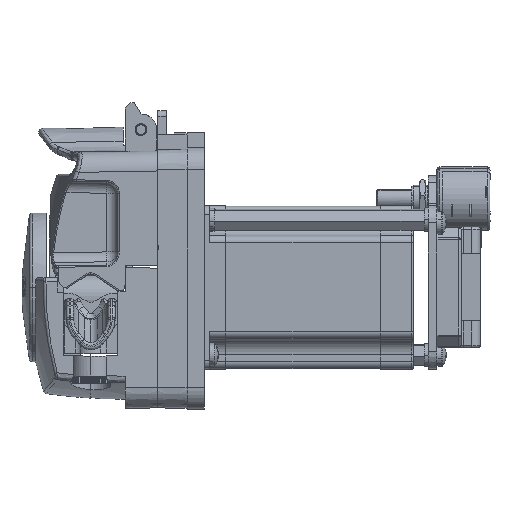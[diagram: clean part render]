
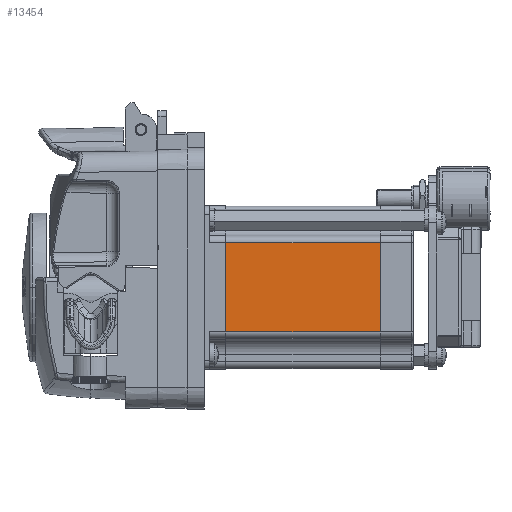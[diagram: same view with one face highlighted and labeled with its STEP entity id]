
A CAD part, top view. The second image highlights one B-rep face of the part: STEP entity #13454.
In plain terms, the highlighted planar face has unit normal (0, 0, 1).
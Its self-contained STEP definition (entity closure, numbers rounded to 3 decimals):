
#2493 = EDGE_CURVE ( 'NONE', #44561, #57234, #45934, .T. ) ;
#3236 = ORIENTED_EDGE ( 'NONE', *, *, #20475, .F. ) ;
#5721 = CARTESIAN_POINT ( 'NONE',  ( 101.1, 15.57, 28.3 ) ) ;
#5938 = CARTESIAN_POINT ( 'NONE',  ( 101.1, 15.57, 28.3 ) ) ;
#6379 = VERTEX_POINT ( 'NONE', #5721 ) ;
#7312 = DIRECTION ( 'NONE',  ( 1., 0., 0. ) ) ;
#7962 = CARTESIAN_POINT ( 'NONE',  ( 47.1, 15.57, 28.3 ) ) ;
#11478 = VECTOR ( 'NONE', #48428, 1000. ) ;
#13454 = ADVANCED_FACE ( 'NONE', ( #58438 ), #52474, .T. ) ;
#20475 = EDGE_CURVE ( 'NONE', #6379, #42428, #46276, .T. ) ;
#21659 = VECTOR ( 'NONE', #47397, 1000. ) ;
#23233 = LINE ( 'NONE', #28591, #35366 ) ;
#23390 = ORIENTED_EDGE ( 'NONE', *, *, #2493, .T. ) ;
#25337 = CARTESIAN_POINT ( 'NONE',  ( -44.01, 15.57, 28.3 ) ) ;
#28591 = CARTESIAN_POINT ( 'NONE',  ( -44.01, -15.57, 28.3 ) ) ;
#31712 = ORIENTED_EDGE ( 'NONE', *, *, #50259, .T. ) ;
#32510 = CARTESIAN_POINT ( 'NONE',  ( 101.1, -15.57, 28.3 ) ) ;
#33167 = DIRECTION ( 'NONE',  ( 0., -1., 0. ) ) ;
#34103 = VECTOR ( 'NONE', #33167, 1000. ) ;
#34488 = AXIS2_PLACEMENT_3D ( 'NONE', #25337, #34517, #7312 ) ;
#34517 = DIRECTION ( 'NONE',  ( 0., 0., 1. ) ) ;
#34623 = CARTESIAN_POINT ( 'NONE',  ( -44.01, 15.57, 28.3 ) ) ;
#35366 = VECTOR ( 'NONE', #55927, 1000. ) ;
#35662 = LINE ( 'NONE', #34623, #11478 ) ;
#41459 = EDGE_LOOP ( 'NONE', ( #23390, #31712, #3236, #42705 ) ) ;
#42428 = VERTEX_POINT ( 'NONE', #32510 ) ;
#42705 = ORIENTED_EDGE ( 'NONE', *, *, #47205, .F. ) ;
#44561 = VERTEX_POINT ( 'NONE', #7962 ) ;
#45934 = LINE ( 'NONE', #47992, #21659 ) ;
#46276 = LINE ( 'NONE', #5938, #34103 ) ;
#47205 = EDGE_CURVE ( 'NONE', #44561, #6379, #35662, .T. ) ;
#47397 = DIRECTION ( 'NONE',  ( 0., -1., 0. ) ) ;
#47992 = CARTESIAN_POINT ( 'NONE',  ( 47.1, 15.57, 28.3 ) ) ;
#48428 = DIRECTION ( 'NONE',  ( 1., 0., 0. ) ) ;
#50259 = EDGE_CURVE ( 'NONE', #57234, #42428, #23233, .T. ) ;
#52474 = PLANE ( 'NONE',  #34488 ) ;
#54368 = CARTESIAN_POINT ( 'NONE',  ( 47.1, -15.57, 28.3 ) ) ;
#55927 = DIRECTION ( 'NONE',  ( 1., 0., 0. ) ) ;
#57234 = VERTEX_POINT ( 'NONE', #54368 ) ;
#58438 = FACE_OUTER_BOUND ( 'NONE', #41459, .T. ) ;
